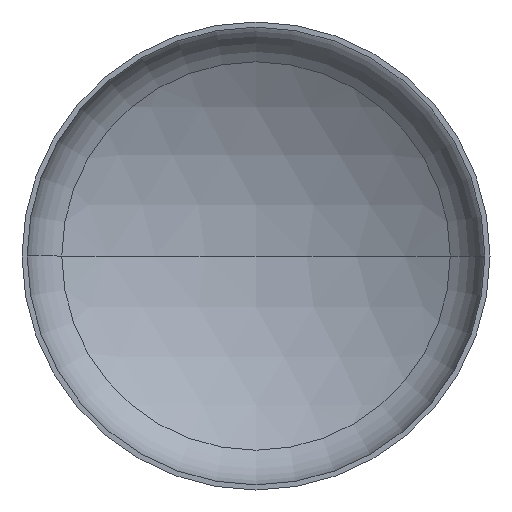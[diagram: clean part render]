
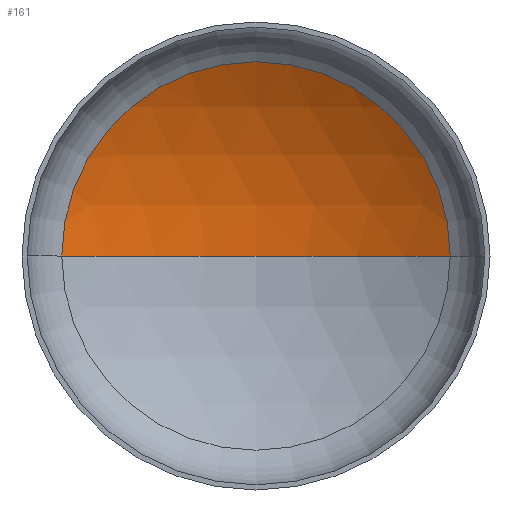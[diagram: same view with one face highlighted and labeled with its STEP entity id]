
A CAD part, front view. The second image highlights one B-rep face of the part: STEP entity #161.
In plain terms, the highlighted spherical face has radius 2240 mm.
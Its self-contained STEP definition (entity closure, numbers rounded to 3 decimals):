
#4 = EDGE_LOOP ( 'NONE', ( #134, #119, #87 ) ) ;
#30 = VERTEX_POINT ( 'NONE', #257 ) ;
#37 = DIRECTION ( 'NONE',  ( -1., 0., 0. ) ) ;
#39 = DIRECTION ( 'NONE',  ( 0., 0., -1. ) ) ;
#45 = CARTESIAN_POINT ( 'NONE',  ( 0., -1447.378, 0. ) ) ;
#53 = AXIS2_PLACEMENT_3D ( 'NONE', #178, #104, #108 ) ;
#66 = AXIS2_PLACEMENT_3D ( 'NONE', #45, #39, #37 ) ;
#71 = AXIS2_PLACEMENT_3D ( 'NONE', #249, #248, #247 ) ;
#84 = VERTEX_POINT ( 'NONE', #240 ) ;
#87 = ORIENTED_EDGE ( 'NONE', *, *, #207, .T. ) ;
#93 = AXIS2_PLACEMENT_3D ( 'NONE', #198, #314, #365 ) ;
#103 = CIRCLE ( 'NONE', #66, 2240. ) ;
#104 = DIRECTION ( 'NONE',  ( 0., 0., 1. ) ) ;
#108 = DIRECTION ( 'NONE',  ( 1., 0., 0. ) ) ;
#119 = ORIENTED_EDGE ( 'NONE', *, *, #223, .T. ) ;
#134 = ORIENTED_EDGE ( 'NONE', *, *, #238, .F. ) ;
#150 = VERTEX_POINT ( 'NONE', #205 ) ;
#161 = ADVANCED_FACE ( 'NONE', ( #220 ), #396, .F. ) ;
#178 = CARTESIAN_POINT ( 'NONE',  ( 0., -1447.378, 0. ) ) ;
#196 = CIRCLE ( 'NONE', #53, 2240. ) ;
#198 = CARTESIAN_POINT ( 'NONE',  ( 0., -1447.378, 0. ) ) ;
#205 = CARTESIAN_POINT ( 'NONE',  ( 1162.077, 467.609, 0. ) ) ;
#207 = EDGE_CURVE ( 'NONE', #150, #30, #389, .T. ) ;
#220 = FACE_OUTER_BOUND ( 'NONE', #4, .T. ) ;
#223 = EDGE_CURVE ( 'NONE', #84, #150, #103, .T. ) ;
#238 = EDGE_CURVE ( 'NONE', #84, #30, #196, .T. ) ;
#240 = CARTESIAN_POINT ( 'NONE',  ( 0., 792.622, 0. ) ) ;
#247 = DIRECTION ( 'NONE',  ( 1., 0., 0. ) ) ;
#248 = DIRECTION ( 'NONE',  ( 0., -1., 0. ) ) ;
#249 = CARTESIAN_POINT ( 'NONE',  ( 0., 467.609, 0. ) ) ;
#257 = CARTESIAN_POINT ( 'NONE',  ( -1162.077, 467.609, 0. ) ) ;
#314 = DIRECTION ( 'NONE',  ( 0., 0., -1. ) ) ;
#365 = DIRECTION ( 'NONE',  ( -1., 0., 0. ) ) ;
#389 = CIRCLE ( 'NONE', #71, 1162.077 ) ;
#396 = SPHERICAL_SURFACE ( 'NONE', #93, 2240. ) ;
